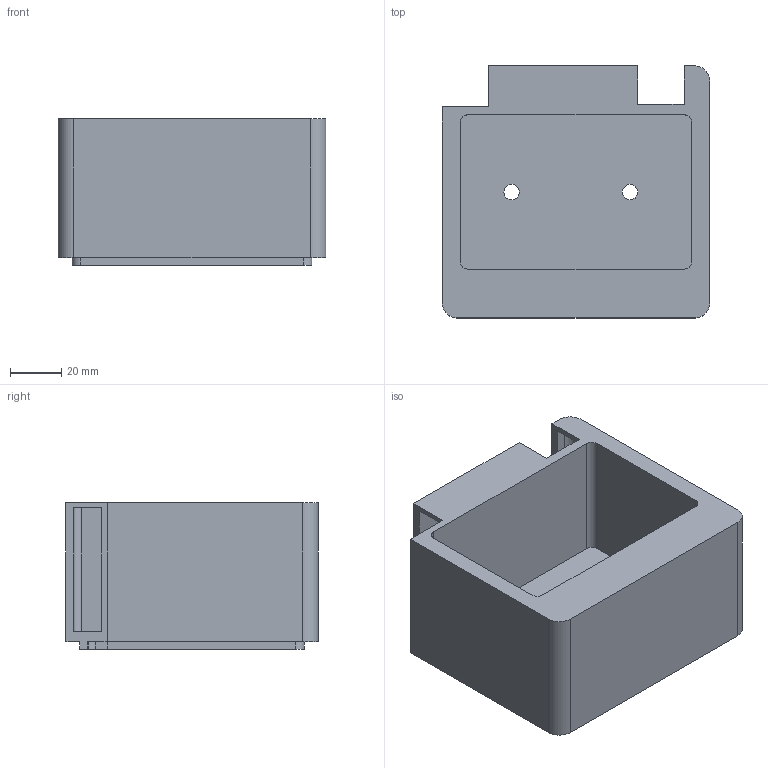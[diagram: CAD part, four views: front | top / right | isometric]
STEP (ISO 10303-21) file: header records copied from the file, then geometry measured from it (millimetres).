
FILE_DESCRIPTION(('Open CASCADE Model'),'2;1');
FILE_NAME('Open CASCADE Shape Model','2026-09-13T21:26:54',('Author'),( 'Open CASCADE'),'Open CASCADE STEP processor 7.9','Open CASCADE 7.9' ,'Unknown');
FILE_SCHEMA(('AUTOMOTIVE_DESIGN { 1 0 10303 214 1 1 1 1 }'));
Length unit declared in the file: millimetre
Products named in the file (1): Open CASCADE STEP translator 7.9 3
Bounding box: 104 x 98 x 57 mm (x, y, z)
Volume: 158706.2 mm3; surface area: 90952.9 mm2
Topology: 1 solids, 1 shells, 66 faces, 189 edges, 126 vertices
Faces by surface type: plane 44, cylinder 22
Full cylindrical faces by diameter (mm): 6 x2
Entity records: 4614 total; most frequent: CARTESIAN_POINT 840, DIRECTION 695, LINE 435, VECTOR 435, ORIENTED_EDGE 378, PCURVE 378, DEFINITIONAL_REPRESENTATION 378, EDGE_CURVE 189
